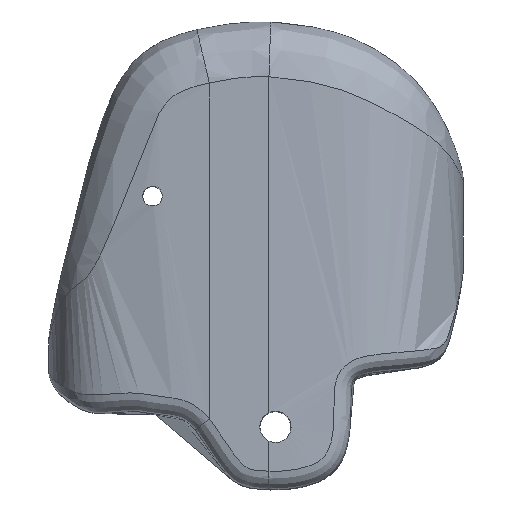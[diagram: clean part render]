
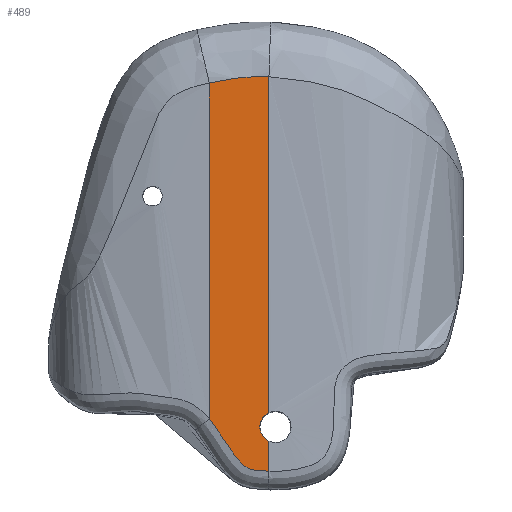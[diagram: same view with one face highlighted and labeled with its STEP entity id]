
A CAD part, top view. The second image highlights one B-rep face of the part: STEP entity #489.
In plain terms, the highlighted planar face has unit normal (0, 0, 1).
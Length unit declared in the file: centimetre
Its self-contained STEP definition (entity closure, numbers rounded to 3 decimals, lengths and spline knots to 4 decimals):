
#294=VERTEX_POINT('',#1301);
#295=VERTEX_POINT('',#1302);
#301=VERTEX_POINT('',#1929);
#307=VERTEX_POINT('',#3191);
#313=VERTEX_POINT('',#4279);
#315=VERTEX_POINT('',#5142);
#316=VERTEX_POINT('',#5144);
#317=B_SPLINE_CURVE_WITH_KNOTS('',3,(#1283,#1284,#1285,#1286,#1287,#1288,
#1289,#1290,#1291,#1292,#1293,#1294,#1295,#1296,#1297,#1298,#1299,#1300),
.UNSPECIFIED.,.F.,.U.,(4,2,2,2,2,2,2,2,4),(3.1193,3.7917,
4.6017,5.3096,6.0175,6.9025,7.7874,
9.2033,10.1759),.UNSPECIFIED.);
#324=B_SPLINE_CURVE_WITH_KNOTS('',3,(#1930,#1931,#1932,#1933),.UNSPECIFIED.,
.F.,.U.,(4,4),(0.,0.0004),.UNSPECIFIED.);
#332=B_SPLINE_CURVE_WITH_KNOTS('',3,(#3187,#3188,#3189,#3190),.UNSPECIFIED.,
.F.,.U.,(4,4),(0.7629,36.0797),.UNSPECIFIED.);
#338=B_SPLINE_CURVE_WITH_KNOTS('',3,(#4271,#4272,#4273,#4274,#4275,#4276,
#4277,#4278),.UNSPECIFIED.,.F.,.U.,(4,2,2,4),(24.8662,25.997,
28.5421,29.8598),.UNSPECIFIED.);
#343=B_SPLINE_CURVE_WITH_KNOTS('',3,(#5138,#5139,#5140,#5141),.UNSPECIFIED.,
.F.,.U.,(4,4),(0.0882,4.1259),.UNSPECIFIED.);
#344=B_SPLINE_CURVE_WITH_KNOTS('',3,(#5145,#5146,#5147,#5148,#5149,#5150),
.UNSPECIFIED.,.F.,.U.,(4,2,4),(6.4818,19.2026,39.0842),
.UNSPECIFIED.);
#346=EDGE_CURVE('',#294,#295,#317,.T.);
#354=EDGE_CURVE('',#301,#294,#324,.T.);
#362=EDGE_CURVE('',#307,#295,#332,.T.);
#370=EDGE_CURVE('',#307,#313,#338,.T.);
#375=EDGE_CURVE('',#301,#315,#343,.T.);
#376=EDGE_CURVE('',#316,#315,#602,.T.);
#377=EDGE_CURVE('',#316,#313,#344,.T.);
#423=ORIENTED_EDGE('',*,*,#354,.F.);
#424=ORIENTED_EDGE('',*,*,#375,.T.);
#425=ORIENTED_EDGE('',*,*,#376,.F.);
#426=ORIENTED_EDGE('',*,*,#377,.T.);
#427=ORIENTED_EDGE('',*,*,#370,.F.);
#428=ORIENTED_EDGE('',*,*,#362,.T.);
#429=ORIENTED_EDGE('',*,*,#346,.F.);
#456=EDGE_LOOP('',(#423,#424,#425,#426,#427,#428,#429));
#474=FACE_BOUND('',#456,.T.);
#489=ADVANCED_FACE('',(#474),#658,.T.);
#602=CIRCLE('',#643,1.2981);
#642=AXIS2_PLACEMENT_3D('',#5137,#5279,$);
#643=AXIS2_PLACEMENT_3D('',#5143,#5280,#5281);
#658=PLANE('',#642);
#1283=CARTESIAN_POINT('',(200.1634,183.7659,25.4));
#1284=CARTESIAN_POINT('',(199.9388,183.7729,25.4));
#1285=CARTESIAN_POINT('',(199.7142,183.7856,25.4));
#1286=CARTESIAN_POINT('',(199.2215,183.8257,25.4));
#1287=CARTESIAN_POINT('',(198.9527,183.8505,25.4));
#1288=CARTESIAN_POINT('',(198.4588,183.977,25.4));
#1289=CARTESIAN_POINT('',(198.2431,184.0837,25.4));
#1290=CARTESIAN_POINT('',(197.8744,184.3811,25.4));
#1291=CARTESIAN_POINT('',(197.7147,184.5611,25.4));
#1292=CARTESIAN_POINT('',(197.3802,184.973,25.4));
#1293=CARTESIAN_POINT('',(197.2085,185.2124,25.4));
#1294=CARTESIAN_POINT('',(196.8738,185.6983,25.4));
#1295=CARTESIAN_POINT('',(196.7115,185.9453,25.4));
#1296=CARTESIAN_POINT('',(196.2925,186.5897,25.4));
#1297=CARTESIAN_POINT('',(196.0399,186.9873,25.4));
#1298=CARTESIAN_POINT('',(195.5862,187.6496,25.4));
#1299=CARTESIAN_POINT('',(195.3934,187.9151,25.4));
#1300=CARTESIAN_POINT('',(195.1857,188.1662,25.4));
#1301=CARTESIAN_POINT('',(200.1633,183.7659,25.4));
#1302=CARTESIAN_POINT('',(195.1853,188.1663,25.4));
#1929=CARTESIAN_POINT('',(200.1633,183.7663,25.4));
#1930=CARTESIAN_POINT('',(200.1633,183.7663,25.4));
#1931=CARTESIAN_POINT('',(200.1633,183.7662,25.4));
#1932=CARTESIAN_POINT('',(200.1633,183.766,25.4));
#1933=CARTESIAN_POINT('',(200.1633,183.7659,25.4));
#3187=CARTESIAN_POINT('',(195.1853,220.8137,25.4));
#3188=CARTESIAN_POINT('',(195.1853,209.0415,25.4));
#3189=CARTESIAN_POINT('',(195.1853,197.2692,25.4));
#3190=CARTESIAN_POINT('',(195.1853,185.4969,25.4));
#3191=CARTESIAN_POINT('',(195.1853,216.1397,25.4));
#4271=CARTESIAN_POINT('',(195.1853,216.1398,25.4));
#4272=CARTESIAN_POINT('',(195.5532,216.2277,25.4));
#4273=CARTESIAN_POINT('',(195.9248,216.3037,25.4));
#4274=CARTESIAN_POINT('',(197.1402,216.5186,25.4));
#4275=CARTESIAN_POINT('',(197.9868,216.6176,25.4));
#4276=CARTESIAN_POINT('',(199.2781,216.6757,25.4));
#4277=CARTESIAN_POINT('',(199.7207,216.6776,25.4));
#4278=CARTESIAN_POINT('',(200.1632,216.662,25.4));
#4279=CARTESIAN_POINT('',(200.1633,216.663,25.4));
#5137=CARTESIAN_POINT('',(199.9765,197.4915,25.4));
#5138=CARTESIAN_POINT('',(200.1633,182.2412,25.4));
#5139=CARTESIAN_POINT('',(200.1633,183.5871,25.4));
#5140=CARTESIAN_POINT('',(200.1633,184.933,25.4));
#5141=CARTESIAN_POINT('',(200.1633,186.2789,25.4));
#5142=CARTESIAN_POINT('',(200.1633,186.2789,25.4));
#5143=CARTESIAN_POINT('',(200.7087,187.4569,25.4));
#5144=CARTESIAN_POINT('',(200.1633,188.6348,25.4));
#5145=CARTESIAN_POINT('',(200.1633,188.6348,25.4));
#5146=CARTESIAN_POINT('',(200.1633,192.875,25.4));
#5147=CARTESIAN_POINT('',(200.1633,197.1153,25.4));
#5148=CARTESIAN_POINT('',(200.1633,207.9828,25.4));
#5149=CARTESIAN_POINT('',(200.1633,214.61,25.4));
#5150=CARTESIAN_POINT('',(200.1633,221.2372,25.4));
#5279=DIRECTION('',(0.,0.,1.));
#5280=DIRECTION('',(0.,0.,1.));
#5281=DIRECTION('',(1.298,0.,0.));
